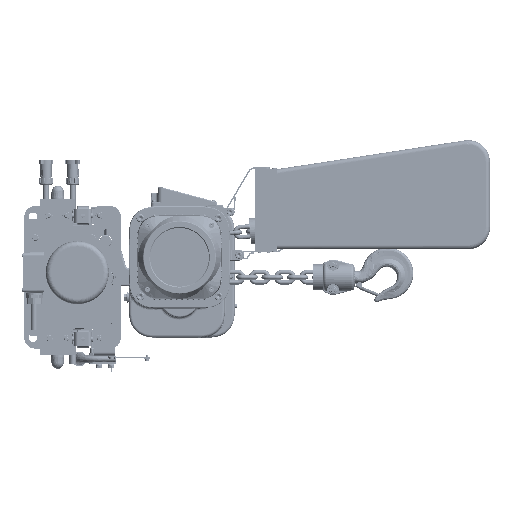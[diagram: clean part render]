
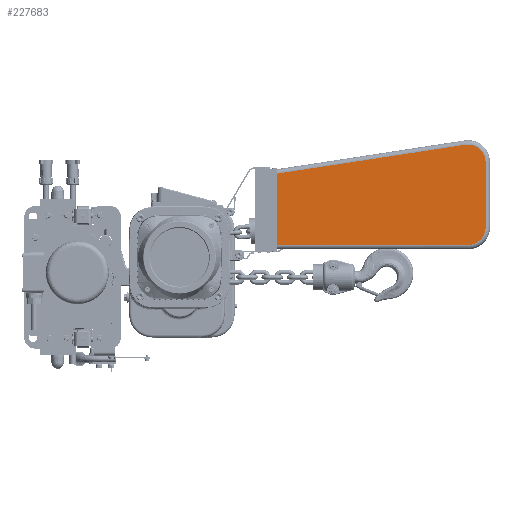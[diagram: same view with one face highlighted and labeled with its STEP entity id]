
A CAD part, left-side view. The second image highlights one B-rep face of the part: STEP entity #227683.
In plain terms, the highlighted planar face has unit normal (-1, 0, 0) as drawn and (0, 0, -1) by its records, which use the part's own axes.
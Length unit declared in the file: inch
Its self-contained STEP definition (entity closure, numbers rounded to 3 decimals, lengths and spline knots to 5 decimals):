
#11205 = VECTOR ( 'NONE', #177678, 39.37008 ) ;
#15930 = VECTOR ( 'NONE', #369103, 39.37008 ) ;
#18479 = CARTESIAN_POINT ( 'NONE',  ( -3.24772, -1.969, -3.54331 ) ) ;
#18999 = CARTESIAN_POINT ( 'NONE',  ( -4.27471, -19.05512, -3.54331 ) ) ;
#27854 = CARTESIAN_POINT ( 'NONE',  ( -5.83132, -18.81641, -3.54331 ) ) ;
#33818 = DIRECTION ( 'NONE',  ( -1., 0., 0. ) ) ;
#42684 = CIRCLE ( 'NONE', #314300, 1.5748 ) ;
#47084 = EDGE_CURVE ( 'NONE', #338963, #179433, #262195, .T. ) ;
#48680 = ORIENTED_EDGE ( 'NONE', *, *, #151227, .T. ) ;
#49996 = EDGE_LOOP ( 'NONE', ( #262623, #242764, #48680, #192925, #113730, #160880 ) ) ;
#57105 = EDGE_CURVE ( 'NONE', #280219, #179433, #149296, .T. ) ;
#61893 = DIRECTION ( 'NONE',  ( 0.152, 0.988, 0. ) ) ;
#67087 = VERTEX_POINT ( 'NONE', #336329 ) ;
#73683 = VECTOR ( 'NONE', #33818, 39.37008 ) ;
#94467 = CARTESIAN_POINT ( 'NONE',  ( -3.70079, -1.969, -3.54331 ) ) ;
#107792 = DIRECTION ( 'NONE',  ( 0., 0., 1. ) ) ;
#113730 = ORIENTED_EDGE ( 'NONE', *, *, #355123, .T. ) ;
#118591 = CARTESIAN_POINT ( 'NONE',  ( -5.83132, -18.81641, -3.54331 ) ) ;
#132355 = FACE_OUTER_BOUND ( 'NONE', #49996, .T. ) ;
#134224 = DIRECTION ( 'NONE',  ( 0., 0., -1. ) ) ;
#135832 = VERTEX_POINT ( 'NONE', #338421 ) ;
#145799 = DIRECTION ( 'NONE',  ( 1., 0., 0. ) ) ;
#146600 = CARTESIAN_POINT ( 'NONE',  ( 3.14961, -19.05512, -3.54331 ) ) ;
#149296 = LINE ( 'NONE', #94467, #11205 ) ;
#151227 = EDGE_CURVE ( 'NONE', #265507, #135832, #175410, .T. ) ;
#154643 = LINE ( 'NONE', #209532, #73683 ) ;
#160880 = ORIENTED_EDGE ( 'NONE', *, *, #47084, .T. ) ;
#162546 = CARTESIAN_POINT ( 'NONE',  ( 1.5748, -19.05512, -3.54331 ) ) ;
#163286 = CARTESIAN_POINT ( 'NONE',  ( 3.14961, -19.05512, -3.54331 ) ) ;
#163393 = CARTESIAN_POINT ( 'NONE',  ( 3.14961, -1.969, -3.54331 ) ) ;
#175410 = CIRCLE ( 'NONE', #302163, 1.5748 ) ;
#176527 = AXIS2_PLACEMENT_3D ( 'NONE', #18999, #107792, #251365 ) ;
#177678 = DIRECTION ( 'NONE',  ( -1., 0., 0. ) ) ;
#179433 = VERTEX_POINT ( 'NONE', #18479 ) ;
#192804 = PLANE ( 'NONE',  #176527 ) ;
#192925 = ORIENTED_EDGE ( 'NONE', *, *, #244342, .T. ) ;
#209532 = CARTESIAN_POINT ( 'NONE',  ( -4.27471, -20.62992, -3.54331 ) ) ;
#227683 = ADVANCED_FACE ( 'NONE', ( #132355 ), #192804, .F. ) ;
#242764 = ORIENTED_EDGE ( 'NONE', *, *, #264559, .T. ) ;
#244342 = EDGE_CURVE ( 'NONE', #135832, #67087, #154643, .T. ) ;
#251365 = DIRECTION ( 'NONE',  ( 1., 0., 0. ) ) ;
#262195 = LINE ( 'NONE', #118591, #348768 ) ;
#262623 = ORIENTED_EDGE ( 'NONE', *, *, #57105, .F. ) ;
#264559 = EDGE_CURVE ( 'NONE', #280219, #265507, #333311, .T. ) ;
#265507 = VERTEX_POINT ( 'NONE', #146600 ) ;
#280219 = VERTEX_POINT ( 'NONE', #163393 ) ;
#289407 = CARTESIAN_POINT ( 'NONE',  ( -4.27471, -19.05512, -3.54331 ) ) ;
#302163 = AXIS2_PLACEMENT_3D ( 'NONE', #162546, #134224, #330762 ) ;
#314300 = AXIS2_PLACEMENT_3D ( 'NONE', #289407, #321469, #145799 ) ;
#321469 = DIRECTION ( 'NONE',  ( 0., 0., -1. ) ) ;
#330762 = DIRECTION ( 'NONE',  ( 1., 0., 0. ) ) ;
#333311 = LINE ( 'NONE', #163286, #15930 ) ;
#336329 = CARTESIAN_POINT ( 'NONE',  ( -4.27471, -20.62992, -3.54331 ) ) ;
#338421 = CARTESIAN_POINT ( 'NONE',  ( 1.5748, -20.62992, -3.54331 ) ) ;
#338963 = VERTEX_POINT ( 'NONE', #27854 ) ;
#348768 = VECTOR ( 'NONE', #61893, 39.37008 ) ;
#355123 = EDGE_CURVE ( 'NONE', #67087, #338963, #42684, .T. ) ;
#369103 = DIRECTION ( 'NONE',  ( 0., -1., 0. ) ) ;
